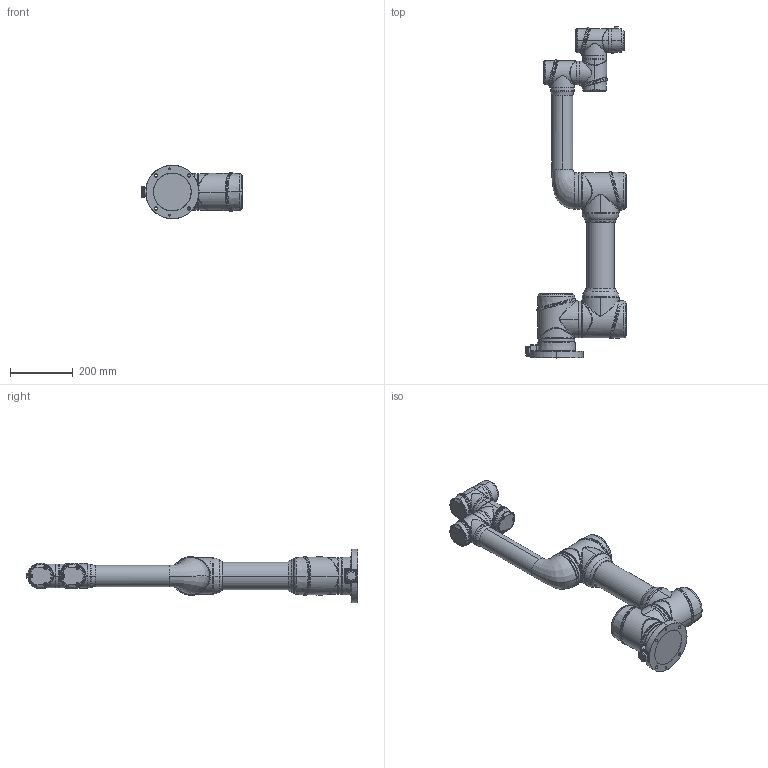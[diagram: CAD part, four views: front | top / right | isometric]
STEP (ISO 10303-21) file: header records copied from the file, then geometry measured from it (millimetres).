
FILE_DESCRIPTION (( 'STEP AP214' ), '1' );
FILE_NAME ('AUBO-iS3(FT)-DRW_Robot_Machine_A0.STEP', '2025-11-06T07:46:34', ( '' ), ( '' ), 'SwSTEP 2.0', 'SolidWorks 2024', '' );
FILE_SCHEMA (( 'AUTOMOTIVE_DESIGN' ));
Length unit declared in the file: millimetre
Products named in the file (8): i5-ID5; i5-大臂; i5-一体化小臂11; i5-ID1; i5-ID6; i5-底座; AUBO-iS3(FT)-DRW_Robot_Machine_A0; i5-末端
Assembly tree (7 placements, depth 2):
  AUBO-iS3(FT)-DRW_Robot_Machine_A0
    i5-底座
    i5-ID1
    i5-大臂
    i5-ID5
    i5-ID6
    i5-一体化小臂11
    i5-末端
Bounding box: 319.65 x 1055.5 x 170.35 mm (x, y, z)
Volume: 11720278.8 mm3; surface area: 753658.3 mm2
Topology: 9 solids, 39 shells, 3280 faces, 7851 edges, 4740 vertices
Faces by surface type: plane 1121, bspline 774, cylinder 749, torus 323, cone 291, sphere 22
Entity records: 233872 total; most frequent: CARTESIAN_POINT 129866, ORIENTED_EDGE 15556, DIRECTION 13382, EDGE_CURVE 7778, AXIS2_PLACEMENT_3D 5257, VERTEX_POINT 4738, EDGE_LOOP 3488, ADVANCED_FACE 3280
